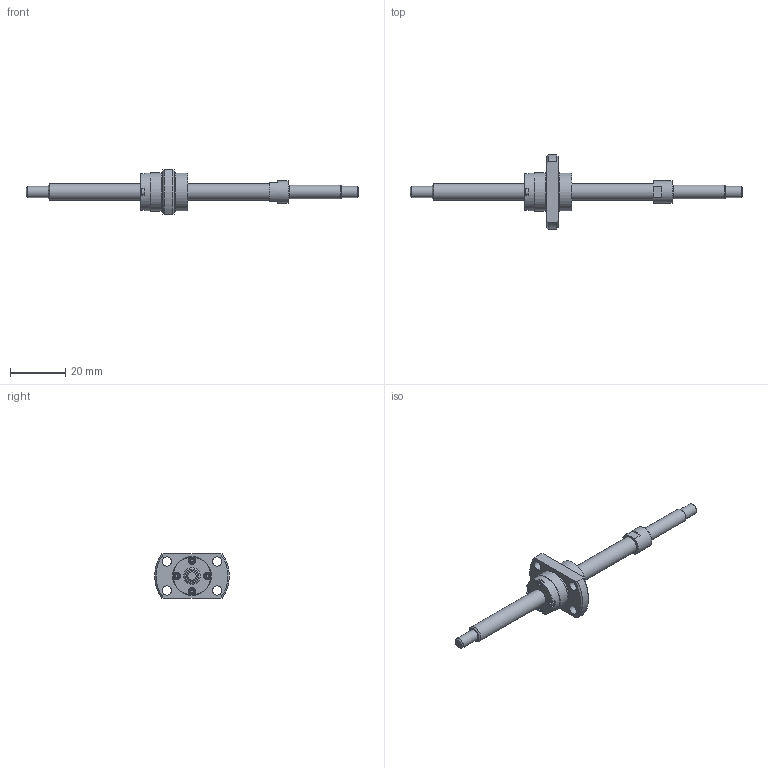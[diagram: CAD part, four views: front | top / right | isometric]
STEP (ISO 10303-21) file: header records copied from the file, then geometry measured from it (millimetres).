
FILE_DESCRIPTION(/* description */ ('STEP AP214'),/* implementation_level */ '2;1');
FILE_NAME(/* name */ 'SG0606-076R120C5C0X(33.5)',/* time_stamp */ '2026-07-20T20:19:14+02:00',/* author */ ('License CC BY-ND 4.0'),/* organization */ ('CADENAS'),/* preprocessor_version */ 'ST-DEVELOPER v20',/* originating_system */ 'PARTsolutions',/* authorisation */ ' ');
FILE_SCHEMA (('AUTOMOTIVE_DESIGN {1 0 10303 214 3 1 1}'));
Length unit declared in the file: millimetre
Products named in the file (3): SG0606-076R120C5C0X(33.5); SG0606-76R120C5C_shaft; SG0606 C5_nut
Assembly tree (2 placements, depth 2):
  SG0606-076R120C5C0X(33.5)
    SG0606-76R120C5C_shaft
    SG0606 C5_nut
Bounding box: 120 x 27 x 16 mm (x, y, z)
Volume: 6049.7 mm3; surface area: 4336.1 mm2
Topology: 2 solids, 2 shells, 102 faces, 233 edges, 152 vertices
Faces by surface type: plane 63, cylinder 25, cone 13, torus 1
Full cylindrical faces by diameter (mm): 2.25 x4, 3.4 x4, 4 x2, 5 x1, 6 x2, 8 x1, 13.6 x3, 14 x2
Entity records: 2811 total; most frequent: CARTESIAN_POINT 481, DIRECTION 478, ORIENTED_EDGE 404, EDGE_CURVE 202, AXIS2_PLACEMENT_3D 179, EDGE_LOOP 158, FACE_BOUND 158, VERTEX_POINT 150
